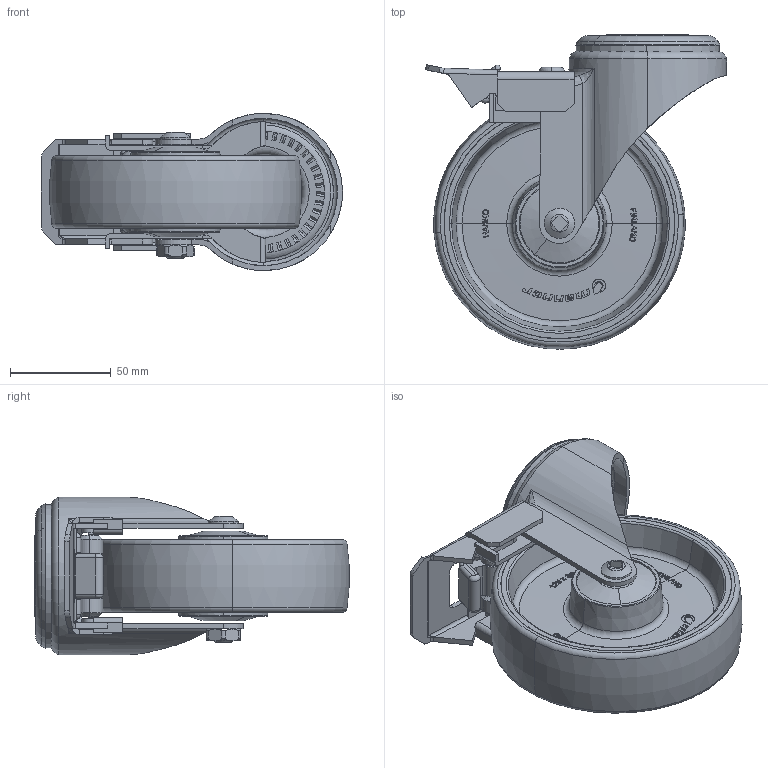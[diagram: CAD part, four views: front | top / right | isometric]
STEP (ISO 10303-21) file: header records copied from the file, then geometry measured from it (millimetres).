
FILE_DESCRIPTION (( 'STEP AP203' ), '1' );
FILE_NAME ('400548_STEP.STEP', '2011-08-29T07:27:28', ( '' ), ( '' ), 'SwSTEP 2.0', 'SolidWorks 2011', '' );
FILE_SCHEMA (( 'CONFIG_CONTROL_DESIGN' ));
Length unit declared in the file: millimetre
Products named in the file (1): 400548_STEP
Bounding box: 149.27 x 155.85 x 78 mm (x, y, z)
Surface area: 135201.4 mm2 (no closed solid volume)
Topology: 0 solids, 27 shells, 670 faces, 2668 edges, 1924 vertices
Faces by surface type: plane 319, cylinder 152, cone 92, torus 75, bspline 28, sphere 4
Entity records: 31283 total; most frequent: CARTESIAN_POINT 10845, ORIENTED_EDGE 4112, DIRECTION 3759, EDGE_CURVE 2664, VERTEX_POINT 1924, AXIS2_PLACEMENT_3D 1316, VECTOR 1127, LINE 1127
